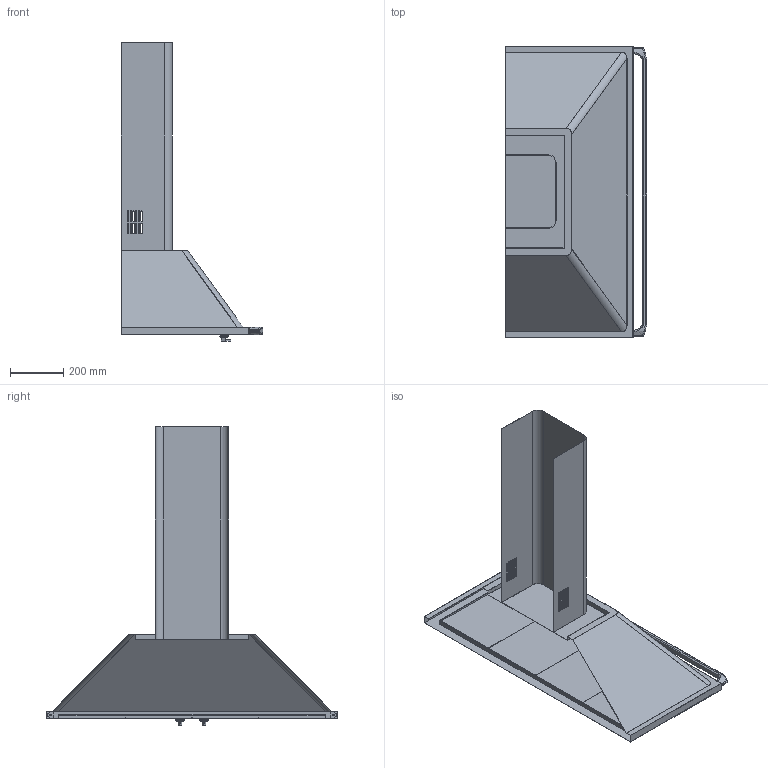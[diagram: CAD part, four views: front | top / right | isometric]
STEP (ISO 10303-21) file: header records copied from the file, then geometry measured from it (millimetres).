
FILE_DESCRIPTION(('CATIA V5 STEP Exchange'),'2;1');
FILE_NAME('\\sr02\Apell\Disegni\DISEGNI\SMEG\CAPPE\KT110BLE\Assiemi\BIM\KT110BLE.stp','2018-02-21T14:08:00+00:00',('none'),('none'),'CATIA Version 5-6 Release 2014','CATIA V5 STEP AP203','none');
FILE_SCHEMA(('CONFIG_CONTROL_DESIGN'));
Length unit declared in the file: millimetre
Products named in the file (1): KT110
Bounding box: 534.32 x 1098 x 1123.41 mm (x, y, z)
Volume: 3529873.9 mm3; surface area: 3958954.1 mm2
Topology: 14 solids, 14 shells, 416 faces, 1034 edges, 674 vertices
Faces by surface type: plane 246, cylinder 140, extrusion 14, bspline 12, cone 4
Entity records: 15540 total; most frequent: CARTESIAN_POINT 6244, ORIENTED_EDGE 2068, DIRECTION 1472, EDGE_CURVE 1034, VECTOR 689, LINE 675, VERTEX_POINT 674, AXIS2_PLACEMENT_3D 522
